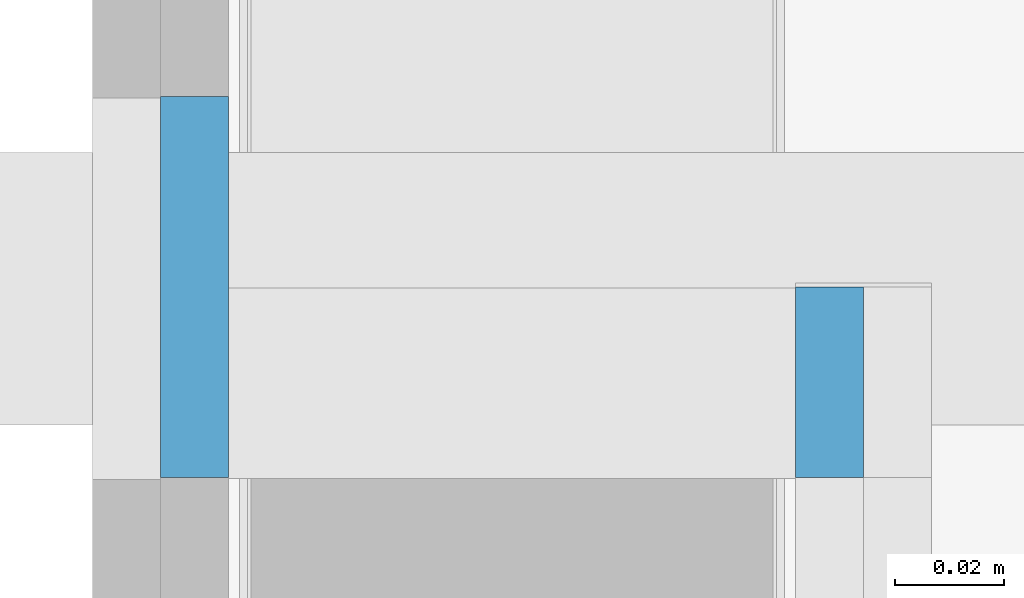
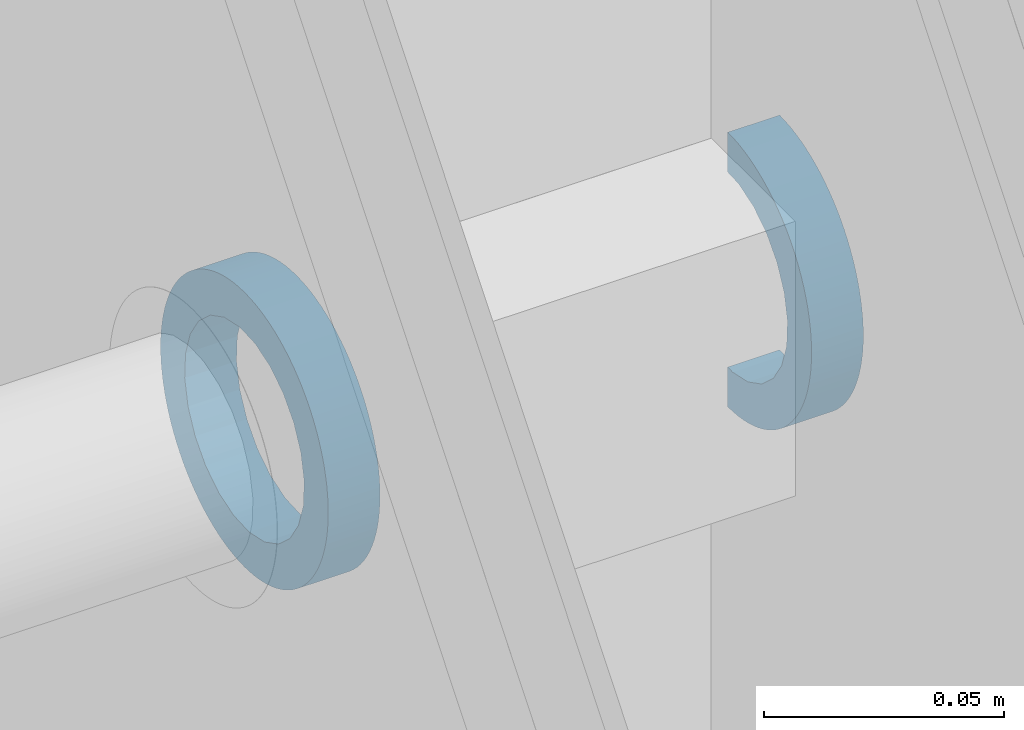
# One storey, part 10 of 92: 2 walls.
"""IFC2X3 building model written with IfcOpenShell, lengths in millimetres."""

from ifc_helpers import new_model, si_unit, frame, origin_with_axes, place, context, subcontext, project, spatial, faceted_brep, material, type_object, element, save


model = new_model("IFC2X3")

# Units and contexts
model_context = context("Model", 3, world=origin_with_axes())
body_context = subcontext(model_context, "Body", "Model", "MODEL_VIEW")
ifc_project = project(units=[si_unit("LENGTHUNIT", "METRE", prefix="MILLI"), si_unit("AREAUNIT", "SQUARE_METRE"), si_unit("VOLUMEUNIT", "CUBIC_METRE")], contexts=[model_context])

# Site, building, storey
site_placement = place(None, origin_with_axes())
site = spatial("IfcSite", under=ifc_project, at=site_placement, Name="Default Site", CompositionType="ELEMENT")
building_placement = place(site_placement, origin_with_axes())
building = spatial("IfcBuilding", under=site, at=building_placement, Name="Default Building", CompositionType="ELEMENT")
storey_placement = place(building_placement, origin_with_axes())
storey = spatial("IfcBuildingStorey", under=building, at=storey_placement, Name="Default Building Storey", CompositionType="ELEMENT", Elevation=0.0)

# Walls
ifc_material = material(Name="M08_Obsidian_Black")
wall_type_1 = type_object("IfcWallType", Name="Wypełnienie masą szpachlową RIGIPS#2", PredefinedType="NOTDEFINED")
wall_1_placement = place(storey_placement, frame((141.50763601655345, 1040.3606047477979, 679.9925650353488), z_axis=(0.0, 0.0, 1.0), x_axis=(-4.718447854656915e-16, 1.0, 0.0)))
element("IfcWall", 1, at=wall_1_placement, inside=storey, type_object=wall_type_1, material=ifc_material, Name="Wypełnienie masą szpachlową RIGIPS", context=body_context, shape_type="Brep", body=[
    faceted_brep([(0.0, 12.50000009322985, -84.9303099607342), (0.0, 12.50000009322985, -74.74771466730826), (0.0, 0.0, -74.74771466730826), (0.0, 0.0, -84.9303099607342), (-2.1976681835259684, 12.50000009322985, -84.8612454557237), (-4.386663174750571, 12.50000009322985, -84.65432450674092), (-6.558346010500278, 12.50000009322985, -84.31036373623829), (-8.704146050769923, 12.50000009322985, -83.8307206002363), (-10.815594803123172, 12.50000009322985, -83.21728803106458), (-12.884359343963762, 12.50000009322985, -82.47248696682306), (-14.902275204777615, 12.50000009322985, -81.59925679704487), (-16.86137859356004, 12.50000009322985, -80.60104376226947), (-18.753937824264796, 12.50000009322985, -79.48178735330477), (-20.57248383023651, 12.50000009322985, -78.2459047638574), (-22.309839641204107, 12.50000009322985, -76.89827345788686), (-23.959148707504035, 12.50000009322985, -75.44421192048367), (-25.513901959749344, 12.50000009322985, -73.88945866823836), (-26.967963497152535, 12.50000009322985, -72.24014960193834), (-28.31559480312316, 12.50000009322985, -70.50279379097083), (-29.55147739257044, 12.50000009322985, -68.68424778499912), (-30.670733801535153, 12.50000009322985, -66.79168855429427), (-31.668946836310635, 12.50000009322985, -64.83258516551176), (-32.54217700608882, 12.50000009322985, -62.8146693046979), (-33.28697807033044, 12.50000009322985, -60.7459047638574), (-33.900410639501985, 12.50000009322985, -58.634456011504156), (-34.38005377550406, 12.50000009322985, -56.4886559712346), (-34.724014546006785, 12.50000009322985, -54.31697313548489), (-34.93093549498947, 12.50000009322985, -52.1279781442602), (-34.99999999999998, 12.50000009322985, -49.930309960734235), (-34.93093549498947, 12.50000009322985, -47.732641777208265), (-34.724014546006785, 12.50000009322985, -45.54364678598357), (-34.38005377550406, 12.50000009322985, -43.37196395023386), (-33.900410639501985, 12.50000009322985, -41.226163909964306), (-33.28697807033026, 12.50000009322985, -39.11471515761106), (-32.54217700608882, 12.50000009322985, -37.04595061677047), (-31.668946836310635, 12.50000009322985, -35.02803475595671), (-30.670733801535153, 12.50000009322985, -33.068931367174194), (-29.55147739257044, 12.50000009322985, -31.176372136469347), (-28.31559480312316, 12.50000009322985, -29.35782613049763), (-26.967963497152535, 12.50000009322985, -27.620470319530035), (-25.513901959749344, 12.50000009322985, -25.971161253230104), (-23.959148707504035, 12.50000009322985, -24.4164080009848), (-22.309839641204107, 12.50000009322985, -22.962346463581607), (-20.57248383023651, 12.50000009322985, -21.61471515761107), (-18.753937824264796, 12.50000009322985, -20.3788325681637), (-16.86137859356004, 12.50000009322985, -19.25957615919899), (-14.902275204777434, 12.50000009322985, -18.261363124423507), (-12.884359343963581, 12.50000009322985, -17.38813295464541), (-10.815594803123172, 12.50000009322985, -16.643331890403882), (-8.704146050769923, 12.50000009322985, -16.029899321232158), (-6.558346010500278, 12.50000009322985, -15.550256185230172), (-4.386663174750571, 12.50000009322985, -15.206295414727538), (-2.1976681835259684, 12.50000009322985, -14.999374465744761), (0.0, 12.50000009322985, -14.93030996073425), (0.0, 12.50000009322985, -25.112905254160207), (-4.503166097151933, 12.50000009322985, -25.339224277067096), (-10.714365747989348, 12.50000009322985, -27.342650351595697), (-16.19539907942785, 12.50000009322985, -30.885388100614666), (-20.57274272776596, 12.50000009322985, -35.726005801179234), (-23.5480879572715, 12.50000009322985, -41.53462335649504), (-24.918669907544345, 12.50000009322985, -47.91539307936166), (-24.59108568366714, 12.50000009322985, -54.43347605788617), (-22.587659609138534, 12.50000009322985, -60.64467570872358), (-19.04492186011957, 12.50000009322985, -66.12570904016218), (-14.204304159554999, 12.50000009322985, -70.50305268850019), (-8.395686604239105, 12.50000009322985, -73.47839791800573), (-2.0149168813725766, 12.50000009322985, -74.84897986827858), (-2.0149168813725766, 0.0, -74.84897986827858), (-8.395686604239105, 0.0, -73.47839791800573), (-14.204304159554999, 0.0, -70.50305268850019), (-19.04492186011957, 0.0, -66.12570904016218), (-22.587659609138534, 0.0, -60.64467570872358), (-24.59108568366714, 0.0, -54.43347605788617), (-24.918669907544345, 0.0, -47.91539307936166), (-23.5480879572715, 0.0, -41.53462335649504), (-20.57274272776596, 0.0, -35.726005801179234), (-16.19539907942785, 0.0, -30.885388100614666), (-10.714365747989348, 0.0, -27.342650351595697), (-4.503166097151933, 0.0, -25.339224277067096), (0.0, 0.0, -25.112905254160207), (0.0, 0.0, -14.93030996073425), (-2.1976681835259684, 0.0, -14.999374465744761), (-4.386663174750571, 0.0, -15.206295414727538), (-6.558346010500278, 0.0, -15.550256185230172), (-8.704146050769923, 0.0, -16.029899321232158), (-10.815594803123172, 0.0, -16.643331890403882), (-12.884359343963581, 0.0, -17.38813295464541), (-14.902275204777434, 0.0, -18.261363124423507), (-16.86137859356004, 0.0, -19.25957615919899), (-18.753937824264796, 0.0, -20.3788325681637), (-20.57248383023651, 0.0, -21.61471515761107), (-22.309839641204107, 0.0, -22.962346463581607), (-23.959148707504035, 0.0, -24.4164080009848), (-25.513901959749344, 0.0, -25.971161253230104), (-26.967963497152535, 0.0, -27.620470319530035), (-28.31559480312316, 0.0, -29.35782613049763), (-29.55147739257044, 0.0, -31.176372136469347), (-30.670733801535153, 0.0, -33.068931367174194), (-31.668946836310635, 0.0, -35.02803475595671), (-32.54217700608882, 0.0, -37.04595061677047), (-33.28697807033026, 0.0, -39.11471515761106), (-33.900410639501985, 0.0, -41.226163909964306), (-34.38005377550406, 0.0, -43.37196395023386), (-34.724014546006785, 0.0, -45.54364678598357), (-34.93093549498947, 0.0, -47.732641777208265), (-34.99999999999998, 0.0, -49.930309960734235), (-34.93093549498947, 0.0, -52.1279781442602), (-34.724014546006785, 0.0, -54.31697313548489), (-34.38005377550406, 0.0, -56.4886559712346), (-33.900410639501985, 0.0, -58.634456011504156), (-33.28697807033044, 0.0, -60.7459047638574), (-32.54217700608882, 0.0, -62.8146693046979), (-31.668946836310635, 0.0, -64.83258516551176), (-30.670733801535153, 0.0, -66.79168855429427), (-29.55147739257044, 0.0, -68.68424778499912), (-28.31559480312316, 0.0, -70.50279379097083), (-26.967963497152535, 0.0, -72.24014960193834), (-25.513901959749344, 0.0, -73.88945866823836), (-23.959148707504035, 0.0, -75.44421192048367), (-22.309839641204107, 0.0, -76.89827345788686), (-20.57248383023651, 0.0, -78.2459047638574), (-18.753937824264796, 0.0, -79.48178735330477), (-16.86137859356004, 0.0, -80.60104376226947), (-14.902275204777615, 0.0, -81.59925679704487), (-12.884359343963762, 0.0, -82.47248696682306), (-10.815594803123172, 0.0, -83.21728803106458), (-8.704146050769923, 0.0, -83.8307206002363), (-6.558346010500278, 0.0, -84.31036373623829), (-4.386663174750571, 0.0, -84.65432450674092), (-2.1976681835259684, 0.0, -84.8612454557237)], [[[0, 1, 2, 3]], [[1, 0, 4, 5, 6, 7, 8, 9, 10, 11, 12, 13, 14, 15, 16, 17, 18, 19, 20, 21, 22, 23, 24, 25, 26, 27, 28, 29, 30, 31, 32, 33, 34, 35, 36, 37, 38, 39, 40, 41, 42, 43, 44, 45, 46, 47, 48, 49, 50, 51, 52, 53, 54, 55, 56, 57, 58, 59, 60, 61, 62, 63, 64, 65, 66]], [[3, 2, 67, 68, 69, 70, 71, 72, 73, 74, 75, 76, 77, 78, 79, 80, 81, 82, 83, 84, 85, 86, 87, 88, 89, 90, 91, 92, 93, 94, 95, 96, 97, 98, 99, 100, 101, 102, 103, 104, 105, 106, 107, 108, 109, 110, 111, 112, 113, 114, 115, 116, 117, 118, 119, 120, 121, 122, 123, 124, 125, 126, 127, 128, 129]], [[3, 129, 4, 0]], [[129, 128, 5, 4]], [[128, 127, 6, 5]], [[127, 126, 7, 6]], [[126, 125, 8, 7]], [[125, 124, 9, 8]], [[124, 123, 10, 9]], [[123, 122, 11, 10]], [[122, 121, 12, 11]], [[121, 120, 13, 12]], [[120, 119, 14, 13]], [[119, 118, 15, 14]], [[118, 117, 16, 15]], [[117, 116, 17, 16]], [[116, 115, 18, 17]], [[115, 114, 19, 18]], [[114, 113, 20, 19]], [[113, 112, 21, 20]], [[112, 111, 22, 21]], [[111, 110, 23, 22]], [[110, 109, 24, 23]], [[109, 108, 25, 24]], [[108, 107, 26, 25]], [[107, 106, 27, 26]], [[106, 105, 28, 27]], [[105, 104, 29, 28]], [[104, 103, 30, 29]], [[103, 102, 31, 30]], [[102, 101, 32, 31]], [[101, 100, 33, 32]], [[100, 99, 34, 33]], [[99, 98, 35, 34]], [[98, 97, 36, 35]], [[97, 96, 37, 36]], [[96, 95, 38, 37]], [[95, 94, 39, 38]], [[94, 93, 40, 39]], [[93, 92, 41, 40]], [[92, 91, 42, 41]], [[91, 90, 43, 42]], [[90, 89, 44, 43]], [[89, 88, 45, 44]], [[88, 87, 46, 45]], [[87, 86, 47, 46]], [[86, 85, 48, 47]], [[85, 84, 49, 48]], [[84, 83, 50, 49]], [[83, 82, 51, 50]], [[82, 81, 52, 51]], [[81, 80, 53, 52]], [[79, 78, 55, 54]], [[78, 77, 56, 55]], [[77, 76, 57, 56]], [[76, 75, 58, 57]], [[75, 74, 59, 58]], [[74, 73, 60, 59]], [[73, 72, 61, 60]], [[72, 71, 62, 61]], [[71, 70, 63, 62]], [[70, 69, 64, 63]], [[69, 68, 65, 64]], [[68, 67, 66, 65]], [[67, 2, 1, 66]], [[79, 54, 53, 80]]]),
])
wall_type_2 = type_object("IfcWallType", Name="Wypełnienie masą szpachlową RIGIPS#4", PredefinedType="NOTDEFINED")
wall_2_placement = place(storey_placement, frame((25.0076335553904, 1040.3606047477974, 679.9925650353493), z_axis=(0.0, 0.0, 1.0), x_axis=(-4.718447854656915e-16, 1.0, 0.0)))
element("IfcWall", 2, at=wall_2_placement, inside=storey, type_object=wall_type_2, material=ifc_material, Name="Wypełnienie masą szpachlową RIGIPS", context=body_context, shape_type="Brep", body=[
    faceted_brep([(0.0, 4.511946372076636e-14, -84.9303099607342), (0.0, 4.511946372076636e-14, -74.74771466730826), (-2.0149168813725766, 4.511946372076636e-14, -74.84897986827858), (-8.395686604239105, 9.023892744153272e-14, -73.47839791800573), (-14.204304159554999, 9.023892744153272e-14, -70.50305268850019), (-19.04492186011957, 9.023892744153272e-14, -66.12570904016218), (-22.587659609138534, 1.3535839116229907e-13, -60.64467570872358), (-24.59108568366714, 1.3535839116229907e-13, -54.43347605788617), (-24.918669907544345, 1.3535839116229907e-13, -47.91539307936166), (-23.5480879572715, 1.3535839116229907e-13, -41.53462335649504), (-20.57274272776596, 1.3535839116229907e-13, -35.726005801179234), (-16.19539907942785, 9.023892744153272e-14, -30.885388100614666), (-10.714365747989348, 9.023892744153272e-14, -27.342650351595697), (-4.503166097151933, 8.741896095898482e-14, -25.339224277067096), (0.0, 4.511946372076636e-14, -25.112905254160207), (0.0, 4.511946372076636e-14, -14.93030996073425), (-2.1976681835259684, 4.511946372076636e-14, -14.999374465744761), (-4.386663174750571, 4.511946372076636e-14, -15.206295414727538), (-6.558346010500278, 4.511946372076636e-14, -15.550256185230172), (-8.704146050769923, 4.511946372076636e-14, -16.029899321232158), (-10.815594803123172, 9.023892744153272e-14, -16.643331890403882), (-12.884359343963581, 9.023892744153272e-14, -17.38813295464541), (-14.902275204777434, 9.023892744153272e-14, -18.261363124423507), (-16.86137859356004, 9.023892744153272e-14, -19.25957615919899), (-18.753937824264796, 9.023892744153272e-14, -20.3788325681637), (-20.57248383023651, 9.023892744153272e-14, -21.61471515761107), (-22.309839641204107, 9.023892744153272e-14, -22.962346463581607), (-23.959148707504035, 9.023892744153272e-14, -24.4164080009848), (-25.513901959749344, 8.741896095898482e-14, -25.971161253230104), (-26.967963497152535, 1.268984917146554e-13, -27.620470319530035), (-28.31559480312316, 1.3535839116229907e-13, -29.35782613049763), (-29.55147739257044, 1.3535839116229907e-13, -31.176372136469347), (-30.670733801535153, 1.3535839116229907e-13, -33.068931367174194), (-31.668946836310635, 1.3535839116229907e-13, -35.02803475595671), (-32.54217700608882, 1.3535839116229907e-13, -37.04595061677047), (-33.28697807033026, 1.268984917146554e-13, -39.11471515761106), (-33.900410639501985, 1.3535839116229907e-13, -41.226163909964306), (-34.38005377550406, 1.3253842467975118e-13, -43.37196395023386), (-34.724014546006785, 1.3535839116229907e-13, -45.54364678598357), (-34.93093549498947, 1.3535839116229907e-13, -47.732641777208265), (-34.99999999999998, 1.3535839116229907e-13, -49.930309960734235), (-34.93093549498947, 1.3535839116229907e-13, -52.1279781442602), (-34.724014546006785, 1.3535839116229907e-13, -54.31697313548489), (-34.38005377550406, 1.3253842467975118e-13, -56.4886559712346), (-33.900410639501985, 1.3535839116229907e-13, -58.634456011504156), (-33.28697807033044, 1.268984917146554e-13, -60.7459047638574), (-32.54217700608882, 1.3535839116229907e-13, -62.8146693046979), (-31.668946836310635, 1.3535839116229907e-13, -64.83258516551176), (-30.670733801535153, 1.3535839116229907e-13, -66.79168855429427), (-29.55147739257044, 1.3535839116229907e-13, -68.68424778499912), (-28.31559480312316, 1.3535839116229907e-13, -70.50279379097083), (-26.967963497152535, 1.268984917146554e-13, -72.24014960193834), (-25.513901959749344, 8.741896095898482e-14, -73.88945866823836), (-23.959148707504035, 9.023892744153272e-14, -75.44421192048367), (-22.309839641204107, 9.023892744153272e-14, -76.89827345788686), (-20.57248383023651, 9.023892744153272e-14, -78.2459047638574), (-18.753937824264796, 9.023892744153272e-14, -79.48178735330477), (-16.86137859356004, 9.023892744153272e-14, -80.60104376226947), (-14.902275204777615, 9.023892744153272e-14, -81.59925679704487), (-12.884359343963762, 9.023892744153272e-14, -82.47248696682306), (-10.815594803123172, 9.023892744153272e-14, -83.21728803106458), (-8.704146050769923, 4.511946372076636e-14, -83.8307206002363), (-6.558346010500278, 4.511946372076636e-14, -84.31036373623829), (-4.386663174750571, 4.511946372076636e-14, -84.65432450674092), (-2.1976681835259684, 4.511946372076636e-14, -84.8612454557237), (-2.1976681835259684, 12.50000009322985, -84.8612454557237), (0.0, 12.50000009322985, -84.9303099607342), (-4.386663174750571, 12.50000009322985, -84.65432450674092), (-6.558346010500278, 12.50000009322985, -84.31036373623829), (-8.704146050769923, 12.50000009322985, -83.8307206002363), (-10.815594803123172, 12.500000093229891, -83.21728803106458), (-12.884359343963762, 12.500000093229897, -82.47248696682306), (-14.902275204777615, 12.500000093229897, -81.59925679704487), (-16.86137859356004, 12.500000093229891, -80.60104376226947), (-18.753937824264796, 12.500000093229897, -79.48178735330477), (-20.57248383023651, 12.500000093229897, -78.2459047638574), (-22.309839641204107, 12.500000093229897, -76.89827345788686), (-23.959148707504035, 12.500000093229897, -75.44421192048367), (-25.513901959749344, 12.50000009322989, -73.88945866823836), (-26.967963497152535, 12.500000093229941, -72.24014960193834), (-28.31559480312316, 12.500000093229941, -70.50279379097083), (-29.55147739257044, 12.500000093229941, -68.68424778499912), (-30.670733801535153, 12.500000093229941, -66.79168855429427), (-31.668946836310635, 12.500000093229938, -64.83258516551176), (-32.54217700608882, 12.500000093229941, -62.8146693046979), (-33.28697807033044, 12.500000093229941, -60.7459047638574), (-33.900410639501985, 12.500000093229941, -58.634456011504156), (-34.38005377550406, 12.500000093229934, -56.4886559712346), (-34.724014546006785, 12.500000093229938, -54.31697313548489), (-34.93093549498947, 12.500000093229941, -52.1279781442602), (-34.99999999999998, 12.500000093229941, -49.930309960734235), (-34.93093549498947, 12.500000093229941, -47.732641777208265), (-34.724014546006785, 12.500000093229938, -45.54364678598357), (-34.38005377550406, 12.500000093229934, -43.37196395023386), (-33.900410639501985, 12.500000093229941, -41.226163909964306), (-33.28697807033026, 12.500000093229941, -39.11471515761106), (-32.54217700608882, 12.500000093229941, -37.04595061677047), (-31.668946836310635, 12.500000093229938, -35.02803475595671), (-30.670733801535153, 12.500000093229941, -33.068931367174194), (-29.55147739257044, 12.500000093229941, -31.176372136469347), (-28.31559480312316, 12.500000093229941, -29.35782613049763), (-26.967963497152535, 12.500000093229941, -27.620470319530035), (-25.513901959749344, 12.50000009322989, -25.971161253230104), (-23.959148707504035, 12.500000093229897, -24.4164080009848), (-22.309839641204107, 12.500000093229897, -22.962346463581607), (-20.57248383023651, 12.500000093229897, -21.61471515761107), (-18.753937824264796, 12.500000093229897, -20.3788325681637), (-16.86137859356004, 12.500000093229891, -19.25957615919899), (-14.902275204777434, 12.500000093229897, -18.261363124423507), (-12.884359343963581, 12.500000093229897, -17.38813295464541), (-10.815594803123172, 12.500000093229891, -16.643331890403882), (-8.704146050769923, 12.50000009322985, -16.029899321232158), (-6.558346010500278, 12.50000009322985, -15.550256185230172), (-4.386663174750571, 12.50000009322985, -15.206295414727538), (-2.1976681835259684, 12.50000009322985, -14.999374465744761), (0.0, 12.50000009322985, -14.93030996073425), (-4.503166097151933, 12.50000009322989, -25.339224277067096), (0.0, 12.50000009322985, -25.112905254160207), (-10.714365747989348, 12.500000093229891, -27.342650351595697), (-16.19539907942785, 12.500000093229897, -30.885388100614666), (-20.57274272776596, 12.500000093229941, -35.726005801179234), (-23.5480879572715, 12.500000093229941, -41.53462335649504), (-24.918669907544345, 12.500000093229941, -47.91539307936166), (-24.59108568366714, 12.500000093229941, -54.43347605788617), (-22.587659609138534, 12.500000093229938, -60.64467570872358), (-19.04492186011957, 12.500000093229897, -66.12570904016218), (-14.204304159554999, 12.500000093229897, -70.50305268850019), (-8.395686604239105, 12.500000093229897, -73.47839791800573), (-2.0149168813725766, 12.50000009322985, -74.84897986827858), (0.0, 12.50000009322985, -74.74771466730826), (2.0149168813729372, 4.511946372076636e-14, -25.01164005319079), (8.39568660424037, 4.511946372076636e-14, -26.382222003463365), (14.20430415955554, 4.511946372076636e-14, -29.357567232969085), (19.04492186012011, 4.511946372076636e-14, -33.73491088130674), (22.58765960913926, 4.511946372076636e-14, -39.21594421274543), (24.59108568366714, 4.511946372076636e-14, -45.42714386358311), (24.918669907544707, -4.511946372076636e-14, -51.94522684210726), (23.54808795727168, -4.511946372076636e-14, -58.32599656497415), (20.57274272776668, -5.357936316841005e-14, -64.13461412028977), (16.195399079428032, -1.3535839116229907e-13, -68.97523182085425), (10.714365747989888, -1.3535839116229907e-13, -72.5179695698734), (4.503166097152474, -1.3535839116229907e-13, -74.52139564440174), (2.197668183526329, -1.3535839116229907e-13, -84.86124545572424), (4.386663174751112, -1.3817835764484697e-13, -84.65432450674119), (6.558346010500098, -1.3535839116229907e-13, -84.31036373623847), (8.704146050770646, -1.4381829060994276e-13, -83.83072060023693), (10.815594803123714, -1.3535839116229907e-13, -83.21728803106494), (12.884359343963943, -1.3535839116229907e-13, -82.47248696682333), (14.902275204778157, -1.4381829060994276e-13, -81.59925679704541), (16.861378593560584, -1.3535839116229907e-13, -80.60104376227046), (18.75393782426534, -1.3535839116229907e-13, -79.48178735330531), (20.57248383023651, -1.4381829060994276e-13, -78.24590476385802), (22.309839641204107, -1.3817835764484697e-13, -76.89827345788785), (23.95914870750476, -1.3535839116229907e-13, -75.44421192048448), (25.513901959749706, -1.3535839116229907e-13, -73.88945866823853), (26.967963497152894, -4.511946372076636e-14, -72.24014960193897), (28.315594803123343, -4.7939430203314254e-14, -70.50279379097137), (29.551477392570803, -4.511946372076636e-14, -68.68424778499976), (30.670733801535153, -4.511946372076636e-14, -66.79168855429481), (31.668946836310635, -4.511946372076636e-14, -64.83258516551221), (32.542177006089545, -5.357936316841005e-14, -62.81466930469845), (33.28697807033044, -4.511946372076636e-14, -60.74590476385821), (33.90041063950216, -4.511946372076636e-14, -58.63445601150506), (34.380053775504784, -4.511946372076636e-14, -56.48865597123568), (34.72401454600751, -4.511946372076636e-14, -54.31697313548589), (34.93093549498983, -4.511946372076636e-14, -52.12797814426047), (35.00000000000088, -4.511946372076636e-14, -49.930309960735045), (34.93093549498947, 4.511946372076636e-14, -47.732641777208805), (34.724014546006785, 4.511946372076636e-14, -45.54364678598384), (34.38005377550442, 4.511946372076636e-14, -43.37196395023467), (33.900410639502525, 4.511946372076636e-14, -41.22616390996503), (33.28697807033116, 4.511946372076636e-14, -39.11471515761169), (32.54217700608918, 3.665956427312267e-14, -37.04595061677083), (31.668946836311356, 4.511946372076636e-14, -35.02803475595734), (30.670733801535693, 4.511946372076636e-14, -33.06893136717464), (29.55147739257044, 4.511946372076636e-14, -31.17637213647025), (28.315594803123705, 4.2299497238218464e-14, -29.357826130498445), (26.967963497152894, 4.511946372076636e-14, -27.62047031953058), (25.513901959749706, 4.511946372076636e-14, -25.971161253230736), (23.959148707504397, 4.511946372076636e-14, -24.41640800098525), (22.309839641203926, 4.2299497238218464e-14, -22.962346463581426), (20.572483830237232, 3.665956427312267e-14, -21.61471515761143), (18.753937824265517, 4.511946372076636e-14, -20.378832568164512), (16.861378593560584, 4.511946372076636e-14, -19.259576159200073), (14.902275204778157, 3.665956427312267e-14, -18.26136312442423), (12.884359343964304, 4.511946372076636e-14, -17.388132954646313), (10.815594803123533, 4.511946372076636e-14, -16.643331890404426), (8.704146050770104, 3.665956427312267e-14, -16.02989932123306), (6.55834601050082, 4.511946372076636e-14, -15.550256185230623), (4.386663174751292, 4.2299497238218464e-14, -15.20629541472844), (2.1976681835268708, 4.511946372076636e-14, -14.999374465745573), (2.197668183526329, 12.500000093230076, -84.86124545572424), (2.1976681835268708, 12.500000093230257, -14.999374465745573), (4.386663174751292, 12.50000009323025, -15.20629541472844), (6.55834601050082, 12.500000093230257, -15.550256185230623), (8.704146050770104, 12.500000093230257, -16.02989932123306), (10.815594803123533, 12.500000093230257, -16.643331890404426), (12.884359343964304, 12.500000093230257, -17.388132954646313), (14.902275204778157, 12.500000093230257, -18.26136312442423), (16.861378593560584, 12.500000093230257, -19.259576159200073), (18.753937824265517, 12.500000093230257, -20.378832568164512), (20.572483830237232, 12.500000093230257, -21.61471515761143), (22.309839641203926, 12.50000009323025, -22.962346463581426), (23.959148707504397, 12.500000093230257, -24.41640800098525), (25.513901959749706, 12.500000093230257, -25.971161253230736), (26.967963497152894, 12.500000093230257, -27.62047031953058), (28.315594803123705, 12.50000009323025, -29.357826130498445), (29.55147739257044, 12.500000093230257, -31.17637213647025), (30.670733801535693, 12.500000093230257, -33.06893136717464), (31.668946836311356, 12.500000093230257, -35.02803475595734), (32.54217700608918, 12.500000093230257, -37.04595061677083), (33.28697807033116, 12.500000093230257, -39.11471515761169), (33.900410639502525, 12.500000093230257, -41.22616390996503), (34.38005377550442, 12.500000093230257, -43.37196395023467), (34.724014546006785, 12.500000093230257, -45.54364678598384), (34.93093549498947, 12.500000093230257, -47.732641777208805), (35.00000000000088, 12.500000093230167, -49.930309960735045), (34.93093549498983, 12.500000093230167, -52.12797814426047), (34.72401454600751, 12.500000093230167, -54.31697313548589), (34.380053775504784, 12.500000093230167, -56.48865597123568), (33.90041063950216, 12.500000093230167, -58.63445601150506), (33.28697807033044, 12.500000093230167, -60.74590476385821), (32.542177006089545, 12.500000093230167, -62.81466930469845), (31.668946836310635, 12.500000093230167, -64.83258516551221), (30.670733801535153, 12.500000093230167, -66.79168855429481), (29.551477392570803, 12.500000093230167, -68.68424778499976), (28.315594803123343, 12.50000009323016, -70.50279379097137), (26.967963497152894, 12.500000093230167, -72.24014960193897), (25.513901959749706, 12.500000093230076, -73.88945866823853), (23.95914870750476, 12.500000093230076, -75.44421192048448), (22.309839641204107, 12.500000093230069, -76.89827345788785), (20.57248383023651, 12.500000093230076, -78.24590476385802), (18.75393782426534, 12.500000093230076, -79.48178735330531), (16.861378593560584, 12.500000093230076, -80.60104376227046), (14.902275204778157, 12.500000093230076, -81.59925679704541), (12.884359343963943, 12.500000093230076, -82.47248696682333), (10.815594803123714, 12.500000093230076, -83.21728803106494), (8.704146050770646, 12.500000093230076, -83.83072060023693), (6.558346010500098, 12.500000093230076, -84.31036373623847), (4.386663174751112, 12.500000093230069, -84.65432450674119), (4.503166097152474, 12.500000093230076, -74.52139564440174), (10.714365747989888, 12.500000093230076, -72.5179695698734), (16.195399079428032, 12.500000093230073, -68.97523182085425), (20.57274272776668, 12.500000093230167, -64.13461412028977), (23.54808795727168, 12.500000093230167, -58.32599656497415), (24.918669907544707, 12.500000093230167, -51.94522684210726), (24.59108568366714, 12.500000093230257, -45.42714386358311), (22.58765960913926, 12.500000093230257, -39.21594421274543), (19.04492186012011, 12.500000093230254, -33.73491088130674), (14.20430415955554, 12.500000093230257, -29.357567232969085), (8.39568660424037, 12.500000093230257, -26.382222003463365), (2.0149168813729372, 12.500000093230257, -25.01164005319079)], [[[0, 1, 2, 3, 4, 5, 6, 7, 8, 9, 10, 11, 12, 13, 14, 15, 16, 17, 18, 19, 20, 21, 22, 23, 24, 25, 26, 27, 28, 29, 30, 31, 32, 33, 34, 35, 36, 37, 38, 39, 40, 41, 42, 43, 44, 45, 46, 47, 48, 49, 50, 51, 52, 53, 54, 55, 56, 57, 58, 59, 60, 61, 62, 63, 64]], [[0, 64, 65, 66]], [[64, 63, 67, 65]], [[63, 62, 68, 67]], [[62, 61, 69, 68]], [[61, 60, 70, 69]], [[60, 59, 71, 70]], [[59, 58, 72, 71]], [[58, 57, 73, 72]], [[57, 56, 74, 73]], [[56, 55, 75, 74]], [[55, 54, 76, 75]], [[54, 53, 77, 76]], [[53, 52, 78, 77]], [[52, 51, 79, 78]], [[51, 50, 80, 79]], [[50, 49, 81, 80]], [[49, 48, 82, 81]], [[48, 47, 83, 82]], [[47, 46, 84, 83]], [[46, 45, 85, 84]], [[45, 44, 86, 85]], [[44, 43, 87, 86]], [[43, 42, 88, 87]], [[42, 41, 89, 88]], [[41, 40, 90, 89]], [[40, 39, 91, 90]], [[39, 38, 92, 91]], [[38, 37, 93, 92]], [[37, 36, 94, 93]], [[36, 35, 95, 94]], [[35, 34, 96, 95]], [[34, 33, 97, 96]], [[33, 32, 98, 97]], [[32, 31, 99, 98]], [[31, 30, 100, 99]], [[30, 29, 101, 100]], [[29, 28, 102, 101]], [[28, 27, 103, 102]], [[27, 26, 104, 103]], [[26, 25, 105, 104]], [[25, 24, 106, 105]], [[24, 23, 107, 106]], [[23, 22, 108, 107]], [[22, 21, 109, 108]], [[21, 20, 110, 109]], [[20, 19, 111, 110]], [[19, 18, 112, 111]], [[18, 17, 113, 112]], [[17, 16, 114, 113]], [[16, 15, 115, 114]], [[14, 13, 116, 117]], [[13, 12, 118, 116]], [[12, 11, 119, 118]], [[11, 10, 120, 119]], [[10, 9, 121, 120]], [[9, 8, 122, 121]], [[8, 7, 123, 122]], [[7, 6, 124, 123]], [[6, 5, 125, 124]], [[5, 4, 126, 125]], [[4, 3, 127, 126]], [[3, 2, 128, 127]], [[2, 1, 129, 128]], [[15, 14, 130, 131, 132, 133, 134, 135, 136, 137, 138, 139, 140, 141, 1, 0, 142, 143, 144, 145, 146, 147, 148, 149, 150, 151, 152, 153, 154, 155, 156, 157, 158, 159, 160, 161, 162, 163, 164, 165, 166, 167, 168, 169, 170, 171, 172, 173, 174, 175, 176, 177, 178, 179, 180, 181, 182, 183, 184, 185, 186, 187, 188, 189, 190]], [[191, 66, 65, 67, 68, 69, 70, 71, 72, 73, 74, 75, 76, 77, 78, 79, 80, 81, 82, 83, 84, 85, 86, 87, 88, 89, 90, 91, 92, 93, 94, 95, 96, 97, 98, 99, 100, 101, 102, 103, 104, 105, 106, 107, 108, 109, 110, 111, 112, 113, 114, 115, 192, 193, 194, 195, 196, 197, 198, 199, 200, 201, 202, 203, 204, 205, 206, 207, 208, 209, 210, 211, 212, 213, 214, 215, 216, 217, 218, 219, 220, 221, 222, 223, 224, 225, 226, 227, 228, 229, 230, 231, 232, 233, 234, 235, 236, 237, 238, 239], [128, 129, 240, 241, 242, 243, 244, 245, 246, 247, 248, 249, 250, 251, 117, 116, 118, 119, 120, 121, 122, 123, 124, 125, 126, 127]], [[15, 190, 192, 115]], [[190, 189, 193, 192]], [[189, 188, 194, 193]], [[188, 187, 195, 194]], [[187, 186, 196, 195]], [[186, 185, 197, 196]], [[185, 184, 198, 197]], [[184, 183, 199, 198]], [[183, 182, 200, 199]], [[182, 181, 201, 200]], [[181, 180, 202, 201]], [[180, 179, 203, 202]], [[179, 178, 204, 203]], [[178, 177, 205, 204]], [[177, 176, 206, 205]], [[176, 175, 207, 206]], [[175, 174, 208, 207]], [[174, 173, 209, 208]], [[173, 172, 210, 209]], [[172, 171, 211, 210]], [[171, 170, 212, 211]], [[170, 169, 213, 212]], [[169, 168, 214, 213]], [[168, 167, 215, 214]], [[167, 166, 216, 215]], [[166, 165, 217, 216]], [[165, 164, 218, 217]], [[164, 163, 219, 218]], [[163, 162, 220, 219]], [[162, 161, 221, 220]], [[161, 160, 222, 221]], [[160, 159, 223, 222]], [[159, 158, 224, 223]], [[158, 157, 225, 224]], [[157, 156, 226, 225]], [[156, 155, 227, 226]], [[155, 154, 228, 227]], [[154, 153, 229, 228]], [[153, 152, 230, 229]], [[152, 151, 231, 230]], [[151, 150, 232, 231]], [[150, 149, 233, 232]], [[149, 148, 234, 233]], [[148, 147, 235, 234]], [[147, 146, 236, 235]], [[146, 145, 237, 236]], [[145, 144, 238, 237]], [[144, 143, 239, 238]], [[143, 142, 191, 239]], [[142, 0, 66, 191]], [[1, 141, 240, 129]], [[141, 140, 241, 240]], [[140, 139, 242, 241]], [[139, 138, 243, 242]], [[138, 137, 244, 243]], [[137, 136, 245, 244]], [[136, 135, 246, 245]], [[135, 134, 247, 246]], [[134, 133, 248, 247]], [[133, 132, 249, 248]], [[132, 131, 250, 249]], [[131, 130, 251, 250]], [[130, 14, 117, 251]]]),
])

save(model, "model.ifc")
